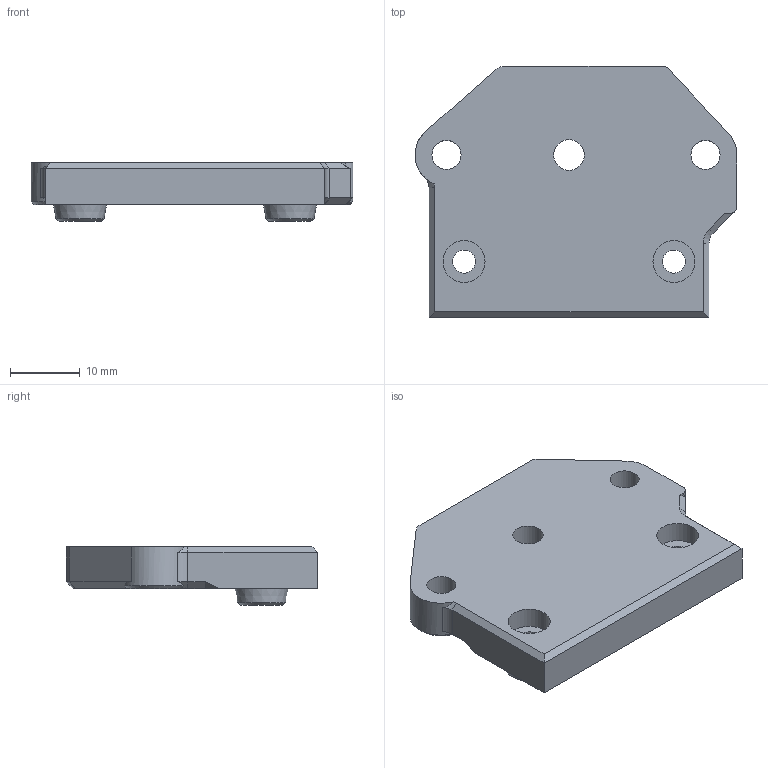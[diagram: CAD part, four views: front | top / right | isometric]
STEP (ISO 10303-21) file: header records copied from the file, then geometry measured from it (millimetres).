
FILE_DESCRIPTION(/* description */ (''),/* implementation_level */ '2;1');
FILE_NAME(/* name */ 'HMG7-Orbiter-V2.0-Front-Mount.step',/* time_stamp */ '2022-11-01T21:45:24-07:00',/* author */ (''),/* organization */ (''),/* preprocessor_version */ 'ST-DEVELOPER v19.2',/* originating_system */ 'Autodesk Translation Framework v11.17.0.187',/* authorisation */ '');
FILE_SCHEMA (('AUTOMOTIVE_DESIGN { 1 0 10303 214 3 1 1 }'));
Length unit declared in the file: millimetre
Products named in the file (3): GEN_7_1.5; Orbiter_2.0; Orbiter_2.0_Mount_Front_Stepper
Assembly tree (2 placements, depth 3):
  GEN_7_1.5
    Orbiter_2.0
      Orbiter_2.0_Mount_Front_Stepper
Bounding box: 46 x 35.88 x 8.38 mm (x, y, z)
Volume: 8226.9 mm3; surface area: 4095.9 mm2
Topology: 1 solids, 1 shells, 57 faces, 135 edges, 82 vertices
Faces by surface type: plane 27, cone 15, cylinder 14, bspline 1
Full cylindrical faces by diameter (mm): 3.3 x2, 4.15 x2, 4.4 x1, 6 x2
Entity records: 1728 total; most frequent: CARTESIAN_POINT 321, DIRECTION 292, ORIENTED_EDGE 266, EDGE_CURVE 133, AXIS2_PLACEMENT_3D 107, VERTEX_POINT 82, LINE 78, VECTOR 78
